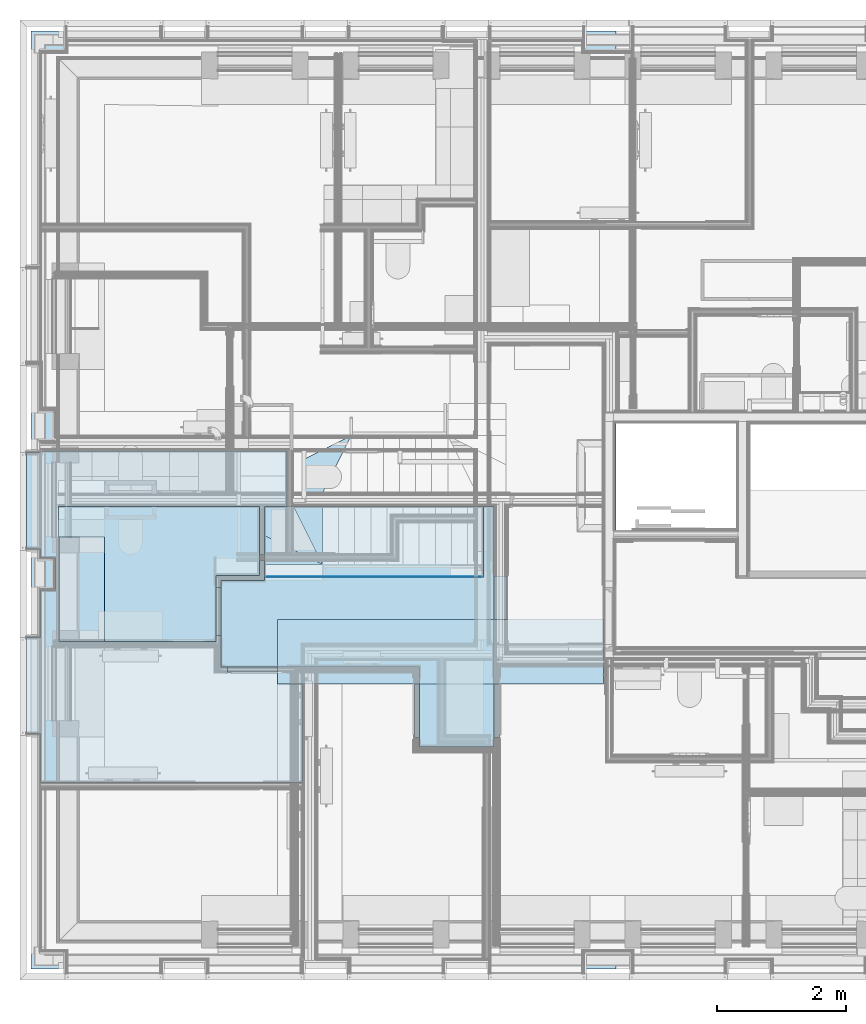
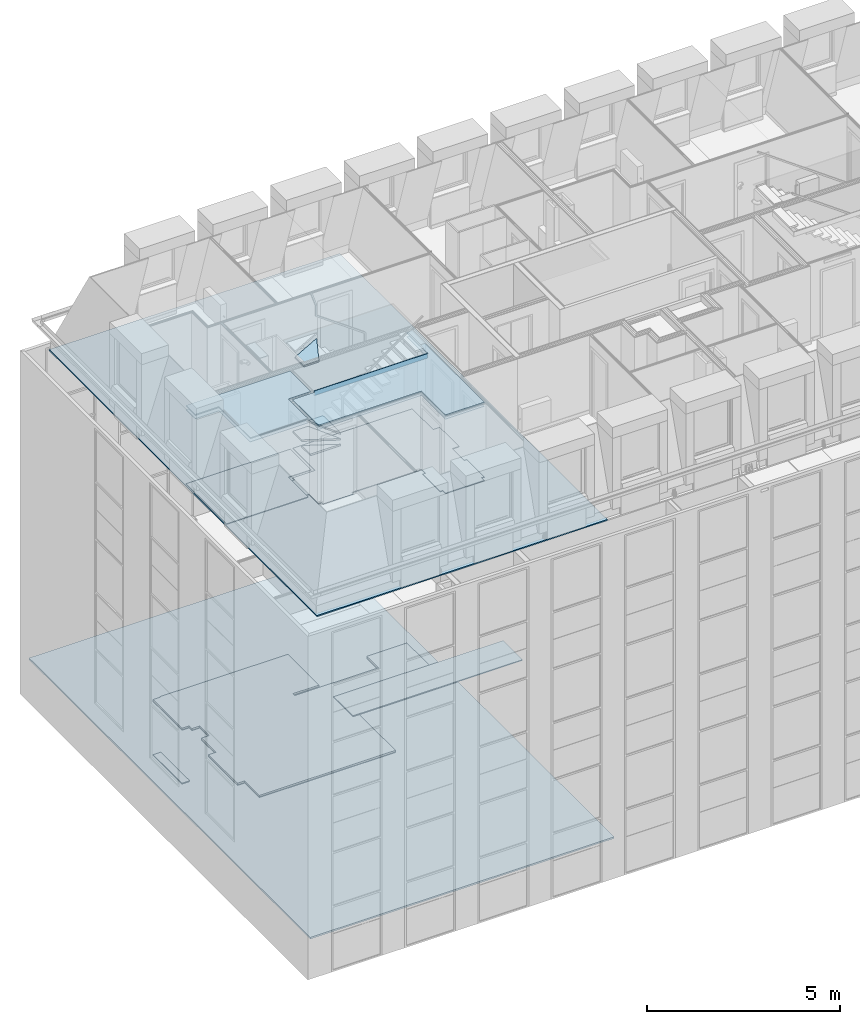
# One storey, part 69 of 169: 22 slabs.
"""IFC2X3 building model written with IfcOpenShell, lengths in metres."""

import ifcopenshell
import ifcopenshell.guid

model = None  # the IFC model being written
_history = None  # IfcOwnerHistory: only IFC2X3 demands one
_inside = {}  # id of a spatial element -> (the spatial element, [elements in it])
_under = {}  # id of a project, library or spatial element -> (it, [spatial elements below it])
_declared = {}  # id of a project -> (the project, [libraries it declares])
_typed = {}  # id of a type object -> (the type object, [elements of that type])
_made_of = {}  # id of a material, layer set ... -> (it, [elements and type objects made of it])


def new_model(schema):
    """Start an empty IFC model of exactly this schema.

    Asked for "IFC4X3", IfcOpenShell would pick the latest addendum, in which some entities
    have other attributes; the version numbers below select the first issue.
    IFC2X3 requires an IfcOwnerHistory on every rooted entity: one is made here for all.
    """
    global model, _history
    if schema == "IFC4X3":
        model = ifcopenshell.file(schema_version=(4, 3, 0, 0))
    else:
        model = ifcopenshell.file(schema=schema)
    _inside.clear()
    _under.clear()
    _declared.clear()
    _typed.clear()
    _made_of.clear()
    _history = None
    if model.schema == "IFC2X3":
        org = make("IfcOrganization", Name="unknown")
        user = make(
            "IfcPersonAndOrganization",
            ThePerson=make("IfcPerson", FamilyName="unknown"),
            TheOrganization=org,
        )
        app = make(
            "IfcApplication",
            ApplicationDeveloper=org,
            Version="unknown",
            ApplicationFullName="unknown",
            ApplicationIdentifier="unknown",
        )
        _history = make(
            "IfcOwnerHistory",
            OwningUser=user,
            OwningApplication=app,
            ChangeAction="ADDED",
            CreationDate=0,
        )
    return model


def make(cls, **values):
    """One entity of the class cls with the attributes given. An attribute that is None is left unset."""
    return model.create_entity(
        cls, **{name: value for name, value in values.items() if value is not None}
    )


def entity(cls, *values):
    """Any entity or typed value of the class cls, its attributes in the order of the schema. None: left unset."""
    e = model.create_entity(cls)
    for i, value in enumerate(values):
        if value is not None:
            e[i] = value
    return e


def rooted(cls, **values):
    """An entity with a GlobalId (a new one), such as an element, a storey or a relation."""
    return make(cls, GlobalId=ifcopenshell.guid.new(), OwnerHistory=_history, **values)


def si_unit(unit_type, name, prefix=None):
    """IfcSIUnit, for example si_unit("LENGTHUNIT", "METRE", prefix="MILLI")."""
    return make("IfcSIUnit", UnitType=unit_type, Prefix=prefix, Name=name)


def converted_unit(unit_type, name, factor, base, dimensions=None, offset=None):
    """IfcConversionBasedUnit, such as the inch: factor (a typed value) times the base unit."""
    return make(
        "IfcConversionBasedUnit"
        if offset is None
        else "IfcConversionBasedUnitWithOffset",
        ConversionOffset=offset,
        Dimensions=None
        if dimensions is None
        else entity("IfcDimensionalExponents", *dimensions),
        UnitType=unit_type,
        Name=name,
        ConversionFactor=make(
            "IfcMeasureWithUnit", ValueComponent=factor, UnitComponent=base
        ),
    )


def derived_unit(unit_type, elements):
    """IfcDerivedUnit: a product of units, each with its exponent."""
    return make(
        "IfcDerivedUnit",
        Elements=[
            make("IfcDerivedUnitElement", Unit=unit, Exponent=power)
            for unit, power in elements
        ],
        UnitType=unit_type,
    )


def money_unit(currency):
    """IfcMonetaryUnit."""
    return make("IfcMonetaryUnit", Currency=currency)


def assignment(units):
    """IfcUnitAssignment: the units of a project."""
    return None if units is None else make("IfcUnitAssignment", Units=units)


def point(xyz):
    """IfcCartesianPoint."""
    return None if xyz is None else make("IfcCartesianPoint", Coordinates=xyz)


def direction(xyz):
    """IfcDirection."""
    return None if xyz is None else make("IfcDirection", DirectionRatios=xyz)


def frame(location, z_axis=None, x_axis=None):
    """IfcAxis2Placement3D, a coordinate frame: its origin and axes. An axis left out is left unset."""
    return make(
        "IfcAxis2Placement3D",
        Location=point(location),
        Axis=direction(z_axis),
        RefDirection=direction(x_axis),
    )


def origin_with_axes():
    """The frame at (0, 0, 0) with the z axis (0, 0, 1) and the x axis (1, 0, 0) written out."""
    return frame((0.0, 0.0, 0.0), z_axis=(0.0, 0.0, 1.0), x_axis=(1.0, 0.0, 0.0))


def place(relative_to, where):
    """IfcLocalPlacement: puts the frame where relative to a parent placement (None: the world)."""
    return make(
        "IfcLocalPlacement", PlacementRelTo=relative_to, RelativePlacement=where
    )


def context(
    kind, dimensions, precision=None, world=None, true_north=None, identifier=None
):
    """IfcGeometricRepresentationContext, for example the 3D "Model" context."""
    return make(
        "IfcGeometricRepresentationContext",
        ContextIdentifier=identifier,
        ContextType=kind,
        CoordinateSpaceDimension=dimensions,
        Precision=precision,
        WorldCoordinateSystem=world,
        TrueNorth=true_north,
    )


def subcontext(parent, identifier, kind, view, scale=None):
    """IfcGeometricRepresentationSubContext, for example "Body" below "Model"."""
    return make(
        "IfcGeometricRepresentationSubContext",
        ContextIdentifier=identifier,
        ContextType=kind,
        ParentContext=parent,
        TargetScale=scale,
        TargetView=view,
    )


def project(units=None, contexts=None):
    """IfcProject with its units and contexts."""
    return rooted(
        "IfcProject",
        Name="project",
        RepresentationContexts=contexts,
        UnitsInContext=assignment(units),
    )


def spatial(cls, under=None, at=None, **own):
    """A site, building, storey or space (cls), placed at a placement, below another one or the project."""
    s = rooted(cls, ObjectPlacement=at, **own)
    if under is not None:
        _under.setdefault(under.id(), (under, []))[1].append(s)
    return s


def faces_of(points, faces, orient=None, outer=None):
    """IfcFace entities. A face is a list of loops; a loop is a list of indices into points, from 0.

    orient and outer hold one flag for each loop. By default every Orientation is true, the
    first loop of a face is its IfcFaceOuterBound and the others are IfcFaceBound.
    """
    made = []
    for i, loops in enumerate(faces):
        bounds = []
        for j, loop in enumerate(loops):
            is_outer = j == 0 if outer is None else outer[i][j]
            bounds.append(
                make(
                    "IfcFaceOuterBound" if is_outer else "IfcFaceBound",
                    Bound=make("IfcPolyLoop", Polygon=[points[k] for k in loop]),
                    Orientation=True if orient is None else orient[i][j],
                )
            )
        made.append(make("IfcFace", Bounds=bounds))
    return made


def faceted_brep(points, faces, orient=None, outer=None, voids=None):
    """IfcFacetedBrep: a solid bounded by flat faces; with voids (closed shells), ...WithVoids."""
    shared = [point(p) for p in points]
    hull = make("IfcClosedShell", CfsFaces=faces_of(shared, faces, orient, outer))
    if voids is None:
        return make("IfcFacetedBrep", Outer=hull)
    return make(
        "IfcFacetedBrepWithVoids",
        Outer=hull,
        Voids=[
            make(cls, CfsFaces=faces_of(shared, fs, o, b)) for cls, fs, o, b in voids
        ],
    )


def shape(context_of_items, identifier, shape_type, items):
    """IfcShapeRepresentation: the items that make up one representation, for example the "Body"."""
    return make(
        "IfcShapeRepresentation",
        ContextOfItems=context_of_items,
        RepresentationIdentifier=identifier,
        RepresentationType=shape_type,
        Items=items,
    )


def material(Name=None, Category=None):
    """IfcMaterial."""
    return make("IfcMaterial", Name=Name, Category=Category)


def made_of(thing, what):
    """Note that an element or type object is made of a material, layer set ...; save() writes the relation."""
    if what is not None:
        _made_of.setdefault(what.id(), (what, []))[1].append(thing)
    return thing


def type_object(cls, material=None, **own):
    """A type object (cls), such as IfcWallType, which elements share."""
    return made_of(rooted(cls, **own), material)


def element(
    cls,
    number,
    at=None,
    inside=None,
    cuts=None,
    type_object=None,
    material=None,
    context=None,
    identifier="Body",
    shape_type=None,
    held_by="IfcProductDefinitionShape",
    body=None,
    shapes=None,
    **own,
):
    """One element of the class cls, such as IfcWall. Its Tag is "e" and its number.

    at: its placement. inside: the storey or other place that contains it. cuts: it is an
    opening in that element (IfcRelVoidsElement). A single representation is given by context,
    identifier, shape_type and body (its items); several are given by shapes. held_by: the class
    of the entity that holds the representations. save() writes the other relations.
    """
    e = rooted(cls, Tag="e%d" % number, ObjectPlacement=at, **own)
    if body is not None:
        shapes = [shape(context, identifier, shape_type, body)]
    if shapes is not None:
        e.Representation = make(held_by, Representations=shapes)
    if inside is not None:
        _inside.setdefault(inside.id(), (inside, []))[1].append(e)
    if cuts is not None:
        rooted(
            "IfcRelVoidsElement", RelatingBuildingElement=cuts, RelatedOpeningElement=e
        )
    if type_object is not None:
        _typed.setdefault(type_object.id(), (type_object, []))[1].append(e)
    return made_of(e, material)


def aggregate(whole, parts):
    """IfcRelAggregates: a whole, such as a stair, and the parts it consists of."""
    return rooted("IfcRelAggregates", RelatingObject=whole, RelatedObjects=parts)


def save(model, path):
    """Write the relations noted so far, then the file.

    IfcRelAggregates (storeys below a building ...), IfcRelContainedInSpatialStructure (elements
    in a storey), IfcRelDefinesByType, IfcRelAssociatesMaterial and IfcRelDeclares: one each for
    every whole, place, type object, material and project.
    """
    for whole, parts in _under.values():
        aggregate(whole, parts)
    for where, things in _inside.values():
        rooted(
            "IfcRelContainedInSpatialStructure",
            RelatedElements=things,
            RelatingStructure=where,
        )
    for kind, things in _typed.values():
        rooted("IfcRelDefinesByType", RelatedObjects=things, RelatingType=kind)
    for what, things in _made_of.values():
        rooted("IfcRelAssociatesMaterial", RelatedObjects=things, RelatingMaterial=what)
    for by, libraries in _declared.values():
        rooted("IfcRelDeclares", RelatingContext=by, RelatedDefinitions=libraries)
    model.write(path)


model = new_model("IFC2X3")

# Units and contexts
model_context = context("Model", 3, precision=1e-05, world=origin_with_axes(), true_north=direction((0.0, 1.0)))
body_context = subcontext(model_context, "Body", "Model", "MODEL_VIEW", scale=1.0)
ifc_project = project(units=[si_unit("LENGTHUNIT", "METRE"), si_unit("AREAUNIT", "SQUARE_METRE"), si_unit("VOLUMEUNIT", "CUBIC_METRE"), si_unit("ABSORBEDDOSEUNIT", "GRAY"), si_unit("AMOUNTOFSUBSTANCEUNIT", "MOLE"), si_unit("DOSEEQUIVALENTUNIT", "SIEVERT"), si_unit("ELECTRICCAPACITANCEUNIT", "FARAD"), si_unit("ELECTRICCHARGEUNIT", "COULOMB"), si_unit("ELECTRICCONDUCTANCEUNIT", "SIEMENS"), si_unit("ELECTRICCURRENTUNIT", "AMPERE"), si_unit("ELECTRICRESISTANCEUNIT", "OHM"), si_unit("ELECTRICVOLTAGEUNIT", "VOLT"), si_unit("ENERGYUNIT", "JOULE"), si_unit("FORCEUNIT", "NEWTON"), si_unit("FREQUENCYUNIT", "HERTZ"), si_unit("ILLUMINANCEUNIT", "LUX"), si_unit("INDUCTANCEUNIT", "HENRY"), si_unit("LUMINOUSFLUXUNIT", "LUMEN"), si_unit("LUMINOUSINTENSITYUNIT", "CANDELA"), si_unit("MAGNETICFLUXDENSITYUNIT", "TESLA"), si_unit("MAGNETICFLUXUNIT", "WEBER"), si_unit("MASSUNIT", "GRAM"), converted_unit("PLANEANGLEUNIT", "degree", entity("IfcReal", 0.0174532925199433), si_unit("PLANEANGLEUNIT", "RADIAN"), dimensions=[0, 0, 0, 0, 0, 0, 0]), si_unit("POWERUNIT", "WATT"), si_unit("PRESSUREUNIT", "PASCAL"), si_unit("RADIOACTIVITYUNIT", "BECQUEREL"), si_unit("SOLIDANGLEUNIT", "STERADIAN"), si_unit("THERMODYNAMICTEMPERATUREUNIT", "KELVIN"), si_unit("TIMEUNIT", "SECOND"), derived_unit("ACCELERATIONUNIT", [(si_unit("LENGTHUNIT", "METRE"), 1), (si_unit("TIMEUNIT", "SECOND"), -2)]), derived_unit("ANGULARVELOCITYUNIT", [(converted_unit("PLANEANGLEUNIT", "degree", entity("IfcReal", 0.0174532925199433), si_unit("PLANEANGLEUNIT", "RADIAN"), dimensions=[0, 0, 0, 0, 0, 0, 0]), 1), (si_unit("TIMEUNIT", "SECOND"), -1)]), derived_unit("CURVATUREUNIT", [(converted_unit("PLANEANGLEUNIT", "degree", entity("IfcReal", 0.0174532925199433), si_unit("PLANEANGLEUNIT", "RADIAN"), dimensions=[0, 0, 0, 0, 0, 0, 0]), 1), (si_unit("LENGTHUNIT", "METRE"), -1)]), derived_unit("DYNAMICVISCOSITYUNIT", [(si_unit("PRESSUREUNIT", "PASCAL"), 1), (si_unit("TIMEUNIT", "SECOND"), 1)]), derived_unit("HEATFLUXDENSITYUNIT", [(si_unit("POWERUNIT", "WATT"), 1), (si_unit("LENGTHUNIT", "METRE"), -2)]), derived_unit("HEATINGVALUEUNIT", [(si_unit("ENERGYUNIT", "JOULE"), 1), (si_unit("MASSUNIT", "GRAM"), -1)]), derived_unit("INTEGERCOUNTRATEUNIT", [(si_unit("TIMEUNIT", "SECOND"), -1)]), derived_unit("IONCONCENTRATIONUNIT", [(si_unit("MASSUNIT", "GRAM"), 1), (si_unit("VOLUMEUNIT", "CUBIC_METRE"), -1)]), derived_unit("ISOTHERMALMOISTURECAPACITYUNIT", [(si_unit("VOLUMEUNIT", "CUBIC_METRE"), 1), (si_unit("MASSUNIT", "GRAM"), -1)]), derived_unit("KINEMATICVISCOSITYUNIT", [(si_unit("AREAUNIT", "SQUARE_METRE"), 1), (si_unit("TIMEUNIT", "SECOND"), -1)]), derived_unit("LINEARFORCEUNIT", [(si_unit("FORCEUNIT", "NEWTON"), 1), (si_unit("LENGTHUNIT", "METRE"), -1)]), derived_unit("LINEARMOMENTUNIT", [(si_unit("FORCEUNIT", "NEWTON"), 1), (si_unit("LENGTHUNIT", "METRE"), -1)]), derived_unit("LINEARSTIFFNESSUNIT", [(si_unit("FORCEUNIT", "NEWTON"), 1), (si_unit("LENGTHUNIT", "METRE"), -1)]), derived_unit("LINEARVELOCITYUNIT", [(si_unit("LENGTHUNIT", "METRE"), 1), (si_unit("TIMEUNIT", "SECOND"), -1)]), derived_unit("LUMINOUSINTENSITYDISTRIBUTIONUNIT", [(si_unit("LUMINOUSINTENSITYUNIT", "CANDELA"), 1), (si_unit("LUMINOUSFLUXUNIT", "LUMEN"), -1)]), derived_unit("MASSDENSITYUNIT", [(si_unit("MASSUNIT", "GRAM"), 1), (si_unit("VOLUMEUNIT", "CUBIC_METRE"), -1)]), derived_unit("MASSFLOWRATEUNIT", [(si_unit("MASSUNIT", "GRAM"), 1), (si_unit("TIMEUNIT", "SECOND"), -1)]), derived_unit("MASSPERLENGTHUNIT", [(si_unit("MASSUNIT", "GRAM"), 1), (si_unit("LENGTHUNIT", "METRE"), -1)]), derived_unit("MODULUSOFELASTICITYUNIT", [(si_unit("FORCEUNIT", "NEWTON"), 1), (si_unit("AREAUNIT", "SQUARE_METRE"), -1)]), derived_unit("MODULUSOFLINEARSUBGRADEREACTIONUNIT", [(si_unit("FORCEUNIT", "NEWTON"), 1), (si_unit("LENGTHUNIT", "METRE"), -2)]), derived_unit("MODULUSOFROTATIONALSUBGRADEREACTIONUNIT", [(si_unit("FORCEUNIT", "NEWTON"), 1), (si_unit("LENGTHUNIT", "METRE"), 1)]), derived_unit("MODULUSOFSUBGRADEREACTIONUNIT", [(si_unit("FORCEUNIT", "NEWTON"), 1), (si_unit("VOLUMEUNIT", "CUBIC_METRE"), -1)]), derived_unit("MOISTUREDIFFUSIVITYUNIT", [(si_unit("VOLUMEUNIT", "CUBIC_METRE"), 1), (si_unit("TIMEUNIT", "SECOND"), -1)]), derived_unit("MOLECULARWEIGHTUNIT", [(si_unit("MASSUNIT", "GRAM"), 1), (si_unit("AMOUNTOFSUBSTANCEUNIT", "MOLE"), -1)]), derived_unit("PLANARFORCEUNIT", [(si_unit("FORCEUNIT", "NEWTON"), 1), (si_unit("LENGTHUNIT", "METRE"), -2)]), derived_unit("ROTATIONALFREQUENCYUNIT", [(si_unit("TIMEUNIT", "SECOND"), -1)]), derived_unit("ROTATIONALMASSUNIT", [(si_unit("MASSUNIT", "GRAM"), 1), (si_unit("LENGTHUNIT", "METRE"), 2)]), derived_unit("ROTATIONALSTIFFNESSUNIT", [(si_unit("FORCEUNIT", "NEWTON"), 1), (si_unit("LENGTHUNIT", "METRE"), 1), (converted_unit("PLANEANGLEUNIT", "degree", entity("IfcReal", 0.0174532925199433), si_unit("PLANEANGLEUNIT", "RADIAN"), dimensions=[0, 0, 0, 0, 0, 0, 0]), -1)]), derived_unit("SECTIONAREAINTEGRALUNIT", [(si_unit("LENGTHUNIT", "METRE"), 5)]), derived_unit("SECTIONMODULUSUNIT", [(si_unit("LENGTHUNIT", "METRE"), 3)]), derived_unit("SHEARMODULUSUNIT", [(si_unit("FORCEUNIT", "NEWTON"), 1), (si_unit("AREAUNIT", "SQUARE_METRE"), -1)]), derived_unit("SOUNDPOWERUNIT", [(si_unit("ENERGYUNIT", "JOULE"), 1), (si_unit("TIMEUNIT", "SECOND"), -1)]), derived_unit("SPECIFICHEATCAPACITYUNIT", [(si_unit("FORCEUNIT", "NEWTON"), 1), (si_unit("MASSUNIT", "GRAM"), -1), (si_unit("THERMODYNAMICTEMPERATUREUNIT", "KELVIN"), -1)]), derived_unit("TEMPERATUREGRADIENTUNIT", [(si_unit("THERMODYNAMICTEMPERATUREUNIT", "KELVIN"), 1), (si_unit("LENGTHUNIT", "METRE"), -1)]), derived_unit("THERMALADMITTANCEUNIT", [(si_unit("POWERUNIT", "WATT"), 1), (si_unit("AREAUNIT", "SQUARE_METRE"), -1), (si_unit("THERMODYNAMICTEMPERATUREUNIT", "KELVIN"), -1)]), derived_unit("THERMALCONDUCTANCEUNIT", [(si_unit("POWERUNIT", "WATT"), 1), (si_unit("LENGTHUNIT", "METRE"), -1), (si_unit("THERMODYNAMICTEMPERATUREUNIT", "KELVIN"), -1)]), derived_unit("THERMALEXPANSIONCOEFFICIENTUNIT", [(si_unit("THERMODYNAMICTEMPERATUREUNIT", "KELVIN"), -1)]), derived_unit("THERMALRESISTANCEUNIT", [(si_unit("AREAUNIT", "SQUARE_METRE"), 1), (si_unit("POWERUNIT", "WATT"), -1)]), derived_unit("THERMALTRANSMITTANCEUNIT", [(si_unit("POWERUNIT", "WATT"), 1), (si_unit("AREAUNIT", "SQUARE_METRE"), -1), (si_unit("THERMODYNAMICTEMPERATUREUNIT", "KELVIN"), -1)]), derived_unit("TORQUEUNIT", [(si_unit("FORCEUNIT", "NEWTON"), 1), (si_unit("LENGTHUNIT", "METRE"), 1)]), derived_unit("VAPORPERMEABILITYUNIT", [(si_unit("MASSUNIT", "GRAM"), 1), (si_unit("TIMEUNIT", "SECOND"), -1)]), derived_unit("VOLUMETRICFLOWRATEUNIT", [(si_unit("VOLUMEUNIT", "CUBIC_METRE"), 1), (si_unit("TIMEUNIT", "SECOND"), -1)]), derived_unit("WARPINGCONSTANTUNIT", [(si_unit("LENGTHUNIT", "METRE"), 6)]), derived_unit("WARPINGMOMENTUNIT", [(si_unit("FORCEUNIT", "NEWTON"), 1), (si_unit("LENGTHUNIT", "METRE"), 2)]), money_unit("GBP")], contexts=[model_context])

# Site, building, storey
site_placement = place(None, origin_with_axes())
site = spatial("IfcSite", under=ifc_project, at=site_placement, Name="Site", CompositionType="ELEMENT")
building_placement = place(site_placement, origin_with_axes())
building = spatial("IfcBuilding", under=site, at=building_placement, Name="Building01", CompositionType="ELEMENT")
storey_placement = place(building_placement, frame((0.0, 0.0, 5.15), z_axis=(0.0, 0.0, 1.0), x_axis=(1.0, 0.0, 0.0)))
storey = spatial("IfcBuildingStorey", under=building, at=storey_placement, Name="1F", CompositionType="ELEMENT", Elevation=5.15)

# Slabs
ifc_material_1 = material(Name="A_BSUK_InternalFinishes_FloorScreed")
slab_type_1 = type_object("IfcSlabType", Name="A-FloorsSlabs A_BSUK_Slabs", PredefinedType="FLOOR")
placement = place(storey_placement, frame((0.0, 0.0, -5.15), z_axis=(0.0, 0.0, 1.0), x_axis=(1.0, 0.0, 0.0)))
element("IfcSlab", 1, at=placement, inside=storey, type_object=slab_type_1, material=ifc_material_1, Name="A-FloorsSlabs A_BSUK_Slabs", ObjectType="CompoundSlabLeaf", context=body_context, shape_type="Brep", body=[
    faceted_brep([(0.17, 14.73, 5.1), (0.17, 14.73, 5.15), (9.25, 14.73, 5.15), (9.25, 14.73, 5.1), (0.17, 0.17, 5.1), (0.17, 0.17, 5.15), (9.25, 0.17, 5.1), (9.25, 0.17, 5.15)], [[[0, 1, 2, 3]], [[4, 5, 1, 0]], [[6, 7, 5, 4]], [[3, 2, 7, 6]], [[1, 5, 7, 2]], [[3, 6, 4, 0]]]),
])
ifc_material_2 = material(Name="A_BSUK_CeilingSoffitFinishes_Suspended")
element("IfcSlab", 2, at=placement, inside=storey, type_object=slab_type_1, material=ifc_material_2, Name="A-FloorsSlabs A_BSUK_Slabs", ObjectType="CompoundSlabLeaf", context=body_context, shape_type="Brep", body=[
    faceted_brep([(7.064669, 6.466475, 7.765), (7.064669, 6.466475, 7.78), (7.064669, 5.466475, 7.78), (7.064669, 5.466475, 7.765), (7.064669, 7.111475, 7.765), (7.064669, 7.111475, 7.78), (5.864669, 7.111475, 7.765), (5.864669, 7.111475, 7.78), (5.864669, 6.511475, 7.765), (5.864669, 6.511475, 7.78), (5.771088, 6.511475, 7.765), (5.771088, 6.511475, 7.78), (4.937088, 6.511475, 7.765), (4.937088, 6.511475, 7.78), (3.37073, 6.511475, 7.765), (3.37073, 6.511475, 7.78), (3.37073, 6.606475, 7.765), (3.37073, 6.606475, 7.78), (4.14573, 6.606475, 7.765), (4.14573, 6.606475, 7.78), (4.14573, 8.21067, 7.765), (4.14573, 8.21067, 7.78), (0.318, 8.21067, 7.765), (0.318, 8.21067, 7.78), (0.318, 8.185, 7.765), (0.318, 8.185, 7.78), (0.1, 8.185, 7.765), (0.1, 8.185, 7.78), (0.1, 6.69218, 7.765), (0.1, 6.69218, 7.78), (0.318, 6.69218, 7.765), (0.318, 6.69218, 7.78), (0.318, 6.548, 7.765), (0.318, 6.548, 7.78), (0.548, 6.548, 7.765), (0.548, 6.548, 7.78), (0.548, 6.052, 7.765), (0.548, 6.052, 7.78), (0.318, 6.052, 7.765), (0.318, 6.052, 7.78), (0.318, 5.315, 7.765), (0.318, 5.315, 7.78), (0.1, 5.315, 7.765), (0.1, 5.315, 7.78), (0.1, 3.82218, 7.765), (0.1, 3.82218, 7.78), (0.318, 3.82218, 7.765), (0.318, 3.82218, 7.78), (0.318, 3.065286, 7.765), (0.318, 3.065286, 7.78), (4.385, 3.065286, 7.765), (4.385, 3.065286, 7.78), (4.385, 5.205, 7.765), (4.385, 5.205, 7.78), (7.064669, 5.205, 7.765), (7.064669, 5.205, 7.78)], [[[0, 1, 2, 3]], [[4, 5, 1, 0]], [[6, 7, 5, 4]], [[8, 9, 7, 6]], [[10, 11, 9, 8]], [[12, 13, 11, 10]], [[14, 15, 13, 12]], [[16, 17, 15, 14]], [[18, 19, 17, 16]], [[20, 21, 19, 18]], [[22, 23, 21, 20]], [[24, 25, 23, 22]], [[26, 27, 25, 24]], [[28, 29, 27, 26]], [[30, 31, 29, 28]], [[32, 33, 31, 30]], [[34, 35, 33, 32]], [[36, 37, 35, 34]], [[38, 39, 37, 36]], [[40, 41, 39, 38]], [[42, 43, 41, 40]], [[44, 45, 43, 42]], [[46, 47, 45, 44]], [[48, 49, 47, 46]], [[50, 51, 49, 48]], [[52, 53, 51, 50]], [[54, 55, 53, 52]], [[3, 2, 55, 54]], [[1, 5, 7, 9, 11, 13, 15, 17, 19, 21, 23, 25, 27, 29, 31, 33, 35, 37, 39, 41, 43, 45, 47, 49, 51, 53, 55, 2]], [[3, 54, 52, 50, 48, 46, 44, 42, 40, 38, 36, 34, 32, 30, 28, 26, 24, 22, 20, 18, 16, 14, 12, 10, 8, 6, 4, 0]]]),
])
ifc_material_3 = material(Name="A_BSUK_Timber_Miscellaneous")
element("IfcSlab", 3, at=placement, inside=storey, type_object=slab_type_1, material=ifc_material_3, Name="A-FloorsSlabs A_BSUK_Slabs", ObjectType="CompoundSlabLeaf", context=body_context, shape_type="Brep", body=[
    faceted_brep([(0.333, 6.69218, 6.065), (0.333, 6.69218, 6.09), (0.099998, 6.69218, 6.09), (0.099998, 6.69218, 6.065), (0.333, 8.185, 6.065), (0.333, 8.185, 6.09), (0.1, 8.185, 6.065), (0.1, 8.185, 6.09)], [[[0, 1, 2, 3]], [[4, 5, 1, 0]], [[6, 7, 5, 4]], [[3, 2, 7, 6]], [[1, 5, 7, 2]], [[3, 6, 4, 0]]]),
])
element("IfcSlab", 4, at=placement, inside=storey, type_object=slab_type_1, material=ifc_material_2, Name="A-FloorsSlabs A_BSUK_Slabs", ObjectType="CompoundSlabLeaf", context=body_context, shape_type="Brep", body=[
    faceted_brep([(3.997, 4.593, 8.115), (3.997, 4.593, 8.13), (3.997, 5.593, 8.13), (3.997, 5.593, 8.115), (9.06, 4.593, 8.115), (9.06, 4.593, 8.13), (9.06, 5.593, 8.115), (9.06, 5.593, 8.13)], [[[0, 1, 2, 3]], [[4, 5, 1, 0]], [[6, 7, 5, 4]], [[3, 2, 7, 6]], [[1, 5, 7, 2]], [[3, 6, 4, 0]]]),
])
element("IfcSlab", 5, at=placement, inside=storey, type_object=slab_type_1, material=ifc_material_2, Name="A-FloorsSlabs A_BSUK_Slabs", ObjectType="CompoundSlabLeaf", context=body_context, shape_type="Brep", body=[
    faceted_brep([(3.997, 4.593, 8.1), (3.997, 4.593, 8.115), (3.997, 5.593, 8.115), (3.997, 5.593, 8.1), (9.06, 4.593, 8.1), (9.06, 4.593, 8.115), (9.06, 5.593, 8.1), (9.06, 5.593, 8.115)], [[[0, 1, 2, 3]], [[4, 5, 1, 0]], [[6, 7, 5, 4]], [[3, 2, 7, 6]], [[1, 5, 7, 2]], [[3, 6, 4, 0]]]),
])
element("IfcSlab", 6, at=placement, inside=storey, type_object=slab_type_1, material=ifc_material_2, Name="A-FloorsSlabs A_BSUK_Slabs", ObjectType="CompoundSlabLeaf", context=body_context, shape_type="Brep", body=[
    faceted_brep([(3.715111, 7.284939, 17.423), (3.715111, 7.284939, 17.438), (3.715111, 6.279939, 17.438), (3.715111, 6.279939, 17.423), (3.715111, 7.349939, 17.423), (3.715111, 7.349939, 17.438), (0.599939, 7.349939, 17.423), (0.599939, 7.349939, 17.438), (0.599939, 6.874964, 17.423), (0.599939, 6.874964, 17.438), (1.312402, 6.874964, 17.423), (1.312402, 6.874964, 17.438), (1.312402, 5.254976, 17.423), (1.312402, 5.254976, 17.438), (3.039976, 5.254976, 17.423), (3.039976, 5.254976, 17.438), (3.039976, 6.279939, 17.423), (3.039976, 6.279939, 17.438)], [[[0, 1, 2, 3]], [[4, 5, 1, 0]], [[6, 7, 5, 4]], [[8, 9, 7, 6]], [[10, 11, 9, 8]], [[12, 13, 11, 10]], [[14, 15, 13, 12]], [[16, 17, 15, 14]], [[3, 2, 17, 16]], [[1, 5, 7, 9, 11, 13, 15, 17, 2]], [[3, 16, 14, 12, 10, 8, 6, 4, 0]]]),
])
element("IfcSlab", 7, at=placement, inside=storey, type_object=slab_type_1, material=ifc_material_2, Name="A-FloorsSlabs A_BSUK_Slabs", ObjectType="CompoundSlabLeaf", context=body_context, shape_type="Brep", body=[
    faceted_brep([(3.119976, 4.859939, 17.423), (3.119976, 4.859939, 17.438), (3.119976, 6.199939, 17.438), (3.119976, 6.199939, 17.423), (6.200098, 4.859939, 17.423), (6.200098, 4.859939, 17.438), (6.200098, 3.619939, 17.423), (6.200098, 3.619939, 17.438), (7.36, 3.619939, 17.423), (7.36, 3.619939, 17.438), (7.36, 7.349939, 17.423), (7.36, 7.349939, 17.438), (7.195111, 7.349939, 17.423), (7.195111, 7.349939, 17.438), (7.195111, 6.252627, 17.423), (7.195111, 6.252627, 17.438), (3.915111, 6.252627, 17.423), (3.915111, 6.252627, 17.438), (3.795111, 6.252627, 17.423), (3.795111, 6.252627, 17.438), (3.795111, 6.199939, 17.423), (3.795111, 6.199939, 17.438)], [[[0, 1, 2, 3]], [[4, 5, 1, 0]], [[6, 7, 5, 4]], [[8, 9, 7, 6]], [[10, 11, 9, 8]], [[12, 13, 11, 10]], [[14, 15, 13, 12]], [[16, 17, 15, 14]], [[18, 19, 17, 16]], [[20, 21, 19, 18]], [[3, 2, 21, 20]], [[1, 5, 7, 9, 11, 13, 15, 17, 19, 21, 2]], [[3, 20, 18, 16, 14, 12, 10, 8, 6, 4, 0]]]),
])
element("IfcSlab", 8, at=placement, inside=storey, type_object=slab_type_1, material=ifc_material_1, Name="A-FloorsSlabs A_BSUK_Slabs", ObjectType="CompoundSlabLeaf", context=body_context, shape_type="Brep", body=[
    faceted_brep([(0.57, 14.38, 14.93), (0.57, 14.38, 14.965), (9.25, 14.38, 14.965), (9.25, 14.38, 14.93), (0.57, 0.52, 14.93), (0.57, 0.52, 14.965), (9.25, 0.52, 14.93), (9.25, 0.52, 14.965)], [[[0, 1, 2, 3]], [[4, 5, 1, 0]], [[6, 7, 5, 4]], [[3, 2, 7, 6]], [[1, 5, 7, 2]], [[3, 6, 4, 0]]]),
])
ifc_material_4 = material(Name="A_BSUK_ExpandedPolystyreneBoards")
element("IfcSlab", 9, at=placement, inside=storey, type_object=slab_type_1, material=ifc_material_4, Name="A-FloorsSlabs A_BSUK_Slabs", ObjectType="CompoundSlabLeaf", context=body_context, shape_type="Brep", body=[
    faceted_brep([(3.715111, 7.284939, 14.965), (3.715111, 7.284939, 14.968), (3.715111, 6.279939, 14.968), (3.715111, 6.279939, 14.965), (3.715111, 7.349939, 14.965), (3.715111, 7.349939, 14.968), (0.6038, 7.349939, 14.965), (0.6038, 7.349939, 14.968), (0.6038, 5.254976, 14.965), (0.6038, 5.254976, 14.968), (1.312402, 5.254976, 14.965), (1.312402, 5.254976, 14.968), (3.039976, 5.254976, 14.965), (3.039976, 5.254976, 14.968), (3.039976, 6.279939, 14.965), (3.039976, 6.279939, 14.968)], [[[0, 1, 2, 3]], [[4, 5, 1, 0]], [[6, 7, 5, 4]], [[8, 9, 7, 6]], [[10, 11, 9, 8]], [[12, 13, 11, 10]], [[14, 15, 13, 12]], [[3, 2, 15, 14]], [[1, 5, 7, 9, 11, 13, 15, 2]], [[3, 14, 12, 10, 8, 6, 4, 0]]]),
])
element("IfcSlab", 10, at=placement, inside=storey, type_object=slab_type_1, material=ifc_material_4, Name="A-FloorsSlabs A_BSUK_Slabs", ObjectType="CompoundSlabLeaf", context=body_context, shape_type="Brep", body=[
    faceted_brep([(3.119976, 6.094976, 14.965), (3.119976, 6.094976, 14.968), (3.119976, 6.199939, 14.968), (3.119976, 6.199939, 14.965), (3.039976, 6.094976, 14.965), (3.039976, 6.094976, 14.968), (3.039976, 5.344976, 14.965), (3.039976, 5.344976, 14.968), (3.119976, 5.344976, 14.965), (3.119976, 5.344976, 14.968), (3.119976, 4.859939, 14.965), (3.119976, 4.859939, 14.968), (3.219976, 4.859939, 14.965), (3.219976, 4.859939, 14.968), (3.219976, 4.779939, 14.965), (3.219976, 4.779939, 14.968), (4.119976, 4.779939, 14.965), (4.119976, 4.779939, 14.968), (4.119976, 4.859939, 14.965), (4.119976, 4.859939, 14.968), (6.200098, 4.859939, 14.965), (6.200098, 4.859939, 14.968), (6.200098, 4.659939, 14.965), (6.200098, 4.659939, 14.968), (6.120098, 4.659939, 14.965), (6.120098, 4.659939, 14.968), (6.120098, 3.759939, 14.965), (6.120098, 3.759939, 14.968), (6.200098, 3.759939, 14.965), (6.200098, 3.759939, 14.968), (6.200098, 3.619939, 14.965), (6.200098, 3.619939, 14.968), (7.36, 3.619939, 14.965), (7.36, 3.619939, 14.968), (7.36, 3.759939, 14.965), (7.36, 3.759939, 14.968), (7.439975, 3.759939, 14.965), (7.439975, 3.759939, 14.968), (7.439994, 4.659939, 14.965), (7.439994, 4.659939, 14.968), (7.36, 4.659939, 14.965), (7.36, 4.659939, 14.968), (7.36, 5.272, 14.965), (7.36, 5.272, 14.968), (7.56, 5.272, 14.965), (7.56, 5.272, 14.968), (7.56, 6.272, 14.965), (7.56, 6.272, 14.968), (7.36, 6.272, 14.965), (7.36, 6.272, 14.968), (7.36, 7.349939, 14.965), (7.36, 7.349939, 14.968), (7.195111, 7.349939, 14.965), (7.195111, 7.349939, 14.968), (3.915111, 7.349939, 14.965), (3.915111, 7.349939, 14.968), (3.795111, 7.349939, 14.965), (3.795111, 7.349939, 14.968), (3.795111, 6.199939, 14.965), (3.795111, 6.199939, 14.968)], [[[0, 1, 2, 3]], [[4, 5, 1, 0]], [[6, 7, 5, 4]], [[8, 9, 7, 6]], [[10, 11, 9, 8]], [[12, 13, 11, 10]], [[14, 15, 13, 12]], [[16, 17, 15, 14]], [[18, 19, 17, 16]], [[20, 21, 19, 18]], [[22, 23, 21, 20]], [[24, 25, 23, 22]], [[26, 27, 25, 24]], [[28, 29, 27, 26]], [[30, 31, 29, 28]], [[32, 33, 31, 30]], [[34, 35, 33, 32]], [[36, 37, 35, 34]], [[38, 39, 37, 36]], [[40, 41, 39, 38]], [[42, 43, 41, 40]], [[44, 45, 43, 42]], [[46, 47, 45, 44]], [[48, 49, 47, 46]], [[50, 51, 49, 48]], [[52, 53, 51, 50]], [[54, 55, 53, 52]], [[56, 57, 55, 54]], [[58, 59, 57, 56]], [[3, 2, 59, 58]], [[1, 5, 7, 9, 11, 13, 15, 17, 19, 21, 23, 25, 27, 29, 31, 33, 35, 37, 39, 41, 43, 45, 47, 49, 51, 53, 55, 57, 59, 2]], [[3, 58, 56, 54, 52, 50, 48, 46, 44, 42, 40, 38, 36, 34, 32, 30, 28, 26, 24, 22, 20, 18, 16, 14, 12, 10, 8, 6, 4, 0]]]),
])
element("IfcSlab", 11, at=placement, inside=storey, type_object=slab_type_1, material=ifc_material_2, Name="A-FloorsSlabs A_BSUK_Slabs", ObjectType="CompoundSlabLeaf", context=body_context, shape_type="Brep", body=[
    faceted_brep([(3.715111, 7.284939, 17.438), (3.715111, 7.284939, 17.453), (3.715111, 6.279939, 17.453), (3.715111, 6.279939, 17.438), (3.715111, 7.349939, 17.438), (3.715111, 7.349939, 17.453), (0.599939, 7.349939, 17.438), (0.599939, 7.349939, 17.453), (0.599939, 6.874964, 17.438), (0.599939, 6.874964, 17.453), (1.312402, 6.874964, 17.438), (1.312402, 6.874964, 17.453), (1.312402, 5.254976, 17.438), (1.312402, 5.254976, 17.453), (3.039976, 5.254976, 17.438), (3.039976, 5.254976, 17.453), (3.039976, 6.279939, 17.438), (3.039976, 6.279939, 17.453)], [[[0, 1, 2, 3]], [[4, 5, 1, 0]], [[6, 7, 5, 4]], [[8, 9, 7, 6]], [[10, 11, 9, 8]], [[12, 13, 11, 10]], [[14, 15, 13, 12]], [[16, 17, 15, 14]], [[3, 2, 17, 16]], [[1, 5, 7, 9, 11, 13, 15, 17, 2]], [[3, 16, 14, 12, 10, 8, 6, 4, 0]]]),
])
element("IfcSlab", 12, at=placement, inside=storey, type_object=slab_type_1, material=ifc_material_2, Name="A-FloorsSlabs A_BSUK_Slabs", ObjectType="CompoundSlabLeaf", context=body_context, shape_type="Brep", body=[
    faceted_brep([(3.119976, 4.859939, 17.438), (3.119976, 4.859939, 17.453), (3.119976, 6.199939, 17.453), (3.119976, 6.199939, 17.438), (6.200098, 4.859939, 17.438), (6.200098, 4.859939, 17.453), (6.200098, 3.619939, 17.438), (6.200098, 3.619939, 17.453), (7.36, 3.619939, 17.438), (7.36, 3.619939, 17.453), (7.36, 7.349939, 17.438), (7.36, 7.349939, 17.453), (7.195111, 7.349939, 17.438), (7.195111, 7.349939, 17.453), (7.195111, 6.252627, 17.438), (7.195111, 6.252627, 17.453), (3.915111, 6.252627, 17.438), (3.915111, 6.252627, 17.453), (3.795111, 6.252627, 17.438), (3.795111, 6.252627, 17.453), (3.795111, 6.199939, 17.438), (3.795111, 6.199939, 17.453)], [[[0, 1, 2, 3]], [[4, 5, 1, 0]], [[6, 7, 5, 4]], [[8, 9, 7, 6]], [[10, 11, 9, 8]], [[12, 13, 11, 10]], [[14, 15, 13, 12]], [[16, 17, 15, 14]], [[18, 19, 17, 16]], [[20, 21, 19, 18]], [[3, 2, 21, 20]], [[1, 5, 7, 9, 11, 13, 15, 17, 19, 21, 2]], [[3, 20, 18, 16, 14, 12, 10, 8, 6, 4, 0]]]),
])
ifc_material_5 = material(Name="A_BSUK_Slabs")
element("IfcSlab", 13, at=placement, inside=storey, type_object=slab_type_1, material=ifc_material_5, Name="A-FloorsSlabs A_BSUK_Slabs", ObjectType="CompoundSlabLeaf", context=body_context, shape_type="Brep", body=[
    faceted_brep([(4.695111, 7.349939, 15.65), (4.695111, 7.349939, 15.7), (4.695111, 6.449939, 15.7), (4.695111, 6.449939, 15.65), (4.245111, 7.349939, 15.65), (4.245111, 7.349939, 15.7)], [[[0, 1, 2, 3]], [[4, 5, 1, 0]], [[3, 2, 5, 4]], [[1, 5, 2]], [[3, 4, 0]]]),
])
element("IfcSlab", 14, at=placement, inside=storey, type_object=slab_type_1, material=ifc_material_5, Name="A-FloorsSlabs A_BSUK_Slabs", ObjectType="CompoundSlabLeaf", context=body_context, shape_type="Brep", body=[
    faceted_brep([(4.245111, 7.349939, 15.47), (4.245111, 7.349939, 15.52), (4.695111, 6.449939, 15.52), (4.695111, 6.449939, 15.47), (3.795111, 7.349939, 15.47), (3.795111, 7.349939, 15.52), (3.795111, 6.899939, 15.47), (3.795111, 6.899939, 15.52)], [[[0, 1, 2, 3]], [[4, 5, 1, 0]], [[6, 7, 5, 4]], [[3, 2, 7, 6]], [[1, 5, 7, 2]], [[3, 6, 4, 0]]]),
])
element("IfcSlab", 15, at=placement, inside=storey, type_object=slab_type_1, material=ifc_material_5, Name="A-FloorsSlabs A_BSUK_Slabs", ObjectType="CompoundSlabLeaf", context=body_context, shape_type="Brep", body=[
    faceted_brep([(3.795111, 6.899939, 15.29), (3.795111, 6.899939, 15.34), (4.695111, 6.449939, 15.34), (4.695111, 6.449939, 15.29), (3.795111, 6.449939, 15.29), (3.795111, 6.449939, 15.34)], [[[0, 1, 2, 3]], [[4, 5, 1, 0]], [[3, 2, 5, 4]], [[1, 5, 2]], [[3, 4, 0]]]),
])
element("IfcSlab", 16, at=placement, inside=storey, type_object=slab_type_1, material=ifc_material_5, Name="A-FloorsSlabs A_BSUK_Slabs", ObjectType="CompoundSlabLeaf", context=body_context, shape_type="Brep", body=[
    faceted_brep([(4.24, 7.999939, 17.27), (4.24, 7.999939, 17.32), (5.14, 8.449939, 17.32), (5.14, 8.449939, 17.27), (4.24, 7.549939, 17.27), (4.24, 7.549939, 17.32), (4.69, 7.549939, 17.27), (4.69, 7.549939, 17.32)], [[[0, 1, 2, 3]], [[4, 5, 1, 0]], [[6, 7, 5, 4]], [[3, 2, 7, 6]], [[1, 5, 7, 2]], [[3, 6, 4, 0]]]),
])
element("IfcSlab", 17, at=placement, inside=storey, type_object=slab_type_1, material=ifc_material_2, Name="A-FloorsSlabs A_BSUK_Slabs", ObjectType="CompoundSlabLeaf", context=body_context, shape_type="Brep", body=[
    faceted_brep([(3.715111, 7.284939, 17.308), (3.715111, 7.284939, 17.323), (3.715111, 6.279939, 17.323), (3.715111, 6.279939, 17.308), (3.715111, 7.349939, 17.308), (3.715111, 7.349939, 17.323), (0.599939, 7.349939, 17.308), (0.599939, 7.349939, 17.323), (0.599939, 6.874964, 17.308), (0.599939, 6.874964, 17.323), (1.312402, 6.874964, 17.308), (1.312402, 6.874964, 17.323), (1.312402, 5.254976, 17.308), (1.312402, 5.254976, 17.323), (3.039976, 5.254976, 17.308), (3.039976, 5.254976, 17.323), (3.039976, 6.279939, 17.308), (3.039976, 6.279939, 17.323)], [[[0, 1, 2, 3]], [[4, 5, 1, 0]], [[6, 7, 5, 4]], [[8, 9, 7, 6]], [[10, 11, 9, 8]], [[12, 13, 11, 10]], [[14, 15, 13, 12]], [[16, 17, 15, 14]], [[3, 2, 17, 16]], [[1, 5, 7, 9, 11, 13, 15, 17, 2]], [[3, 16, 14, 12, 10, 8, 6, 4, 0]]]),
])
element("IfcSlab", 18, at=placement, inside=storey, type_object=slab_type_1, material=ifc_material_2, Name="A-FloorsSlabs A_BSUK_Slabs", ObjectType="CompoundSlabLeaf", context=body_context, shape_type="Brep", body=[
    faceted_brep([(3.119976, 4.859939, 17.308), (3.119976, 4.859939, 17.323), (3.119976, 6.199939, 17.323), (3.119976, 6.199939, 17.308), (6.200098, 4.859939, 17.308), (6.200098, 4.859939, 17.323), (6.200098, 3.619939, 17.308), (6.200098, 3.619939, 17.323), (7.36, 3.619939, 17.308), (7.36, 3.619939, 17.323), (7.36, 7.349939, 17.308), (7.36, 7.349939, 17.323), (7.195111, 7.349939, 17.308), (7.195111, 7.349939, 17.323), (7.195111, 6.252627, 17.308), (7.195111, 6.252627, 17.323), (3.915111, 6.252627, 17.308), (3.915111, 6.252627, 17.323), (3.795111, 6.252627, 17.308), (3.795111, 6.252627, 17.323), (3.795111, 6.199939, 17.308), (3.795111, 6.199939, 17.323)], [[[0, 1, 2, 3]], [[4, 5, 1, 0]], [[6, 7, 5, 4]], [[8, 9, 7, 6]], [[10, 11, 9, 8]], [[12, 13, 11, 10]], [[14, 15, 13, 12]], [[16, 17, 15, 14]], [[18, 19, 17, 16]], [[20, 21, 19, 18]], [[3, 2, 21, 20]], [[1, 5, 7, 9, 11, 13, 15, 17, 19, 21, 2]], [[3, 20, 18, 16, 14, 12, 10, 8, 6, 4, 0]]]),
])
element("IfcSlab", 19, at=placement, inside=storey, type_object=slab_type_1, material=ifc_material_2, Name="A-FloorsSlabs A_BSUK_Slabs", ObjectType="CompoundSlabLeaf", context=body_context, shape_type="Brep", body=[
    faceted_brep([(7.180111, 6.252627, 17.308), (7.180111, 6.267627, 17.308), (7.180111, 6.267627, 17.453), (7.180111, 6.252627, 17.453), (3.795111, 6.252627, 17.308), (3.795111, 6.267627, 17.308), (3.795111, 6.252627, 17.453), (3.795111, 6.267627, 17.453)], [[[0, 1, 2, 3]], [[4, 5, 1, 0]], [[6, 7, 5, 4]], [[3, 2, 7, 6]], [[1, 5, 7, 2]], [[3, 6, 4, 0]]]),
])
ifc_material_6 = material(Name="A_BSUK_Ceramic_FloorTiles")
slab_type_2 = type_object("IfcSlabType", Name="A-Finishes A_BSUK_Ceramic_FloorTiles", PredefinedType="FLOOR")
element("IfcSlab", 20, at=placement, inside=storey, type_object=slab_type_2, material=ifc_material_6, Name="A-Finishes A_BSUK_Ceramic_FloorTiles", ObjectType="CompoundSlabLeaf", context=body_context, shape_type="Brep", body=[
    faceted_brep([(3.715111, 7.284939, 14.968), (3.715111, 7.284939, 14.98), (3.715111, 6.279939, 14.98), (3.715111, 6.279939, 14.968), (3.715111, 7.349939, 14.968), (3.715111, 7.349939, 14.98), (0.6038, 7.349939, 14.968), (0.6038, 7.349939, 14.98), (0.6038, 6.874964, 14.968), (0.6038, 6.874964, 14.98), (0.6038, 5.254976, 14.968), (0.6038, 5.254976, 14.98), (3.039976, 5.254976, 14.968), (3.039976, 5.254976, 14.98), (3.039976, 6.279939, 14.968), (3.039976, 6.279939, 14.98)], [[[0, 1, 2, 3]], [[4, 5, 1, 0]], [[6, 7, 5, 4]], [[8, 9, 7, 6]], [[10, 11, 9, 8]], [[12, 13, 11, 10]], [[14, 15, 13, 12]], [[3, 2, 15, 14]], [[1, 5, 7, 9, 11, 13, 15, 2]], [[3, 14, 12, 10, 8, 6, 4, 0]]]),
])
slab_type_3 = type_object("IfcSlabType", Name="A-FloorsSlabs A_BSUK_ExpandedPolystyreneBoards", PredefinedType="FLOOR")
element("IfcSlab", 21, at=placement, inside=storey, type_object=slab_type_3, material=ifc_material_4, Name="A-FloorsSlabs A_BSUK_ExpandedPolystyreneBoards", ObjectType="CompoundSlabLeaf", context=body_context, shape_type="Brep", body=[
    faceted_brep([(7.064669, 6.466475, 7.78), (7.064669, 6.466475, 7.83), (7.064669, 5.466475, 7.83), (7.064669, 5.466475, 7.78), (7.064669, 7.111475, 7.78), (7.064669, 7.111475, 7.83), (5.864669, 7.111475, 7.78), (5.864669, 7.111475, 7.83), (5.864669, 6.511475, 7.78), (5.864669, 6.511475, 7.83), (5.771088, 6.511475, 7.78), (5.771088, 6.511475, 7.83), (4.937088, 6.511475, 7.78), (4.937088, 6.511475, 7.83), (3.37073, 6.511475, 7.78), (3.37073, 6.511475, 7.83), (3.37073, 6.606475, 7.78), (3.37073, 6.606475, 7.83), (4.14573, 6.606475, 7.78), (4.14573, 6.606475, 7.83), (4.14573, 8.21067, 7.78), (4.14573, 8.21067, 7.83), (0.318, 8.21067, 7.78), (0.318, 8.21067, 7.83), (0.318, 8.185, 7.78), (0.318, 8.185, 7.83), (0.1, 8.185, 7.78), (0.1, 8.185, 7.83), (0.1, 6.69218, 7.78), (0.1, 6.69218, 7.83), (0.318, 6.69218, 7.78), (0.318, 6.69218, 7.83), (0.318, 6.548, 7.78), (0.318, 6.548, 7.83), (0.548, 6.548, 7.78), (0.548, 6.548, 7.83), (0.548, 6.052, 7.78), (0.548, 6.052, 7.83), (0.318, 6.052, 7.78), (0.318, 6.052, 7.83), (0.318, 5.315, 7.78), (0.318, 5.315, 7.83), (0.1, 5.315, 7.78), (0.1, 5.315, 7.83), (0.1, 3.82218, 7.78), (0.1, 3.82218, 7.83), (0.318, 3.82218, 7.78), (0.318, 3.82218, 7.83), (0.318, 3.065286, 7.78), (0.318, 3.065286, 7.83), (4.385, 3.065286, 7.78), (4.385, 3.065286, 7.83), (4.385, 5.205, 7.78), (4.385, 5.205, 7.83), (7.064669, 5.205, 7.78), (7.064669, 5.205, 7.83)], [[[0, 1, 2, 3]], [[4, 5, 1, 0]], [[6, 7, 5, 4]], [[8, 9, 7, 6]], [[10, 11, 9, 8]], [[12, 13, 11, 10]], [[14, 15, 13, 12]], [[16, 17, 15, 14]], [[18, 19, 17, 16]], [[20, 21, 19, 18]], [[22, 23, 21, 20]], [[24, 25, 23, 22]], [[26, 27, 25, 24]], [[28, 29, 27, 26]], [[30, 31, 29, 28]], [[32, 33, 31, 30]], [[34, 35, 33, 32]], [[36, 37, 35, 34]], [[38, 39, 37, 36]], [[40, 41, 39, 38]], [[42, 43, 41, 40]], [[44, 45, 43, 42]], [[46, 47, 45, 44]], [[48, 49, 47, 46]], [[50, 51, 49, 48]], [[52, 53, 51, 50]], [[54, 55, 53, 52]], [[3, 2, 55, 54]], [[1, 5, 7, 9, 11, 13, 15, 17, 19, 21, 23, 25, 27, 29, 31, 33, 35, 37, 39, 41, 43, 45, 47, 49, 51, 53, 55, 2]], [[3, 54, 52, 50, 48, 46, 44, 42, 40, 38, 36, 34, 32, 30, 28, 26, 24, 22, 20, 18, 16, 14, 12, 10, 8, 6, 4, 0]]]),
])
slab_type_4 = type_object("IfcSlabType", Name="A-FloorsSlabs A_BSUK_InternalFinishes_FloorScreed", PredefinedType="FLOOR")
element("IfcSlab", 22, at=placement, inside=storey, type_object=slab_type_4, material=ifc_material_1, Name="A-FloorsSlabs A_BSUK_InternalFinishes_FloorScreed", ObjectType="CompoundSlabLeaf", context=body_context, shape_type="Brep", body=[
    faceted_brep([(3.119976, 6.094976, 14.968), (3.119976, 6.094976, 14.98), (3.119976, 6.199939, 14.98), (3.119976, 6.199939, 14.968), (3.039976, 6.094976, 14.968), (3.039976, 6.094976, 14.98), (3.039976, 5.344976, 14.968), (3.039976, 5.344976, 14.98), (3.119976, 5.344976, 14.968), (3.119976, 5.344976, 14.98), (3.119976, 4.859939, 14.968), (3.119976, 4.859939, 14.98), (3.219976, 4.859939, 14.968), (3.219976, 4.859939, 14.98), (3.219976, 4.779939, 14.968), (3.219976, 4.779939, 14.98), (4.119976, 4.779939, 14.968), (4.119976, 4.779939, 14.98), (4.119976, 4.859939, 14.968), (4.119976, 4.859939, 14.98), (6.200098, 4.859939, 14.968), (6.200098, 4.859939, 14.98), (6.200098, 4.659939, 14.968), (6.200098, 4.659939, 14.98), (6.120098, 4.659939, 14.968), (6.120098, 4.659939, 14.98), (6.120098, 3.759939, 14.968), (6.120098, 3.759939, 14.98), (6.200098, 3.759939, 14.968), (6.200098, 3.759939, 14.98), (6.200098, 3.619939, 14.968), (6.200098, 3.619939, 14.98), (7.36, 3.619939, 14.968), (7.36, 3.619939, 14.98), (7.36, 3.759939, 14.968), (7.36, 3.759939, 14.98), (7.439975, 3.759939, 14.968), (7.439975, 3.759939, 14.98), (7.439994, 4.659939, 14.968), (7.439994, 4.659939, 14.98), (7.36, 4.659939, 14.968), (7.36, 4.659939, 14.98), (7.36, 5.272, 14.968), (7.36, 5.272, 14.98), (7.56, 5.272, 14.968), (7.56, 5.272, 14.98), (7.56, 6.272, 14.968), (7.56, 6.272, 14.98), (7.36, 6.272, 14.968), (7.36, 6.272, 14.98), (7.36, 7.349939, 14.968), (7.36, 7.349939, 14.98), (7.195111, 7.349939, 14.968), (7.195111, 7.349939, 14.98), (3.915111, 7.349939, 14.968), (3.915111, 7.349939, 14.98), (3.795111, 7.349939, 14.968), (3.795111, 7.349939, 14.98), (3.795111, 6.199939, 14.968), (3.795111, 6.199939, 14.98)], [[[0, 1, 2, 3]], [[4, 5, 1, 0]], [[6, 7, 5, 4]], [[8, 9, 7, 6]], [[10, 11, 9, 8]], [[12, 13, 11, 10]], [[14, 15, 13, 12]], [[16, 17, 15, 14]], [[18, 19, 17, 16]], [[20, 21, 19, 18]], [[22, 23, 21, 20]], [[24, 25, 23, 22]], [[26, 27, 25, 24]], [[28, 29, 27, 26]], [[30, 31, 29, 28]], [[32, 33, 31, 30]], [[34, 35, 33, 32]], [[36, 37, 35, 34]], [[38, 39, 37, 36]], [[40, 41, 39, 38]], [[42, 43, 41, 40]], [[44, 45, 43, 42]], [[46, 47, 45, 44]], [[48, 49, 47, 46]], [[50, 51, 49, 48]], [[52, 53, 51, 50]], [[54, 55, 53, 52]], [[56, 57, 55, 54]], [[58, 59, 57, 56]], [[3, 2, 59, 58]], [[1, 5, 7, 9, 11, 13, 15, 17, 19, 21, 23, 25, 27, 29, 31, 33, 35, 37, 39, 41, 43, 45, 47, 49, 51, 53, 55, 57, 59, 2]], [[3, 58, 56, 54, 52, 50, 48, 46, 44, 42, 40, 38, 36, 34, 32, 30, 28, 26, 24, 22, 20, 18, 16, 14, 12, 10, 8, 6, 4, 0]]]),
])

save(model, "model.ifc")
